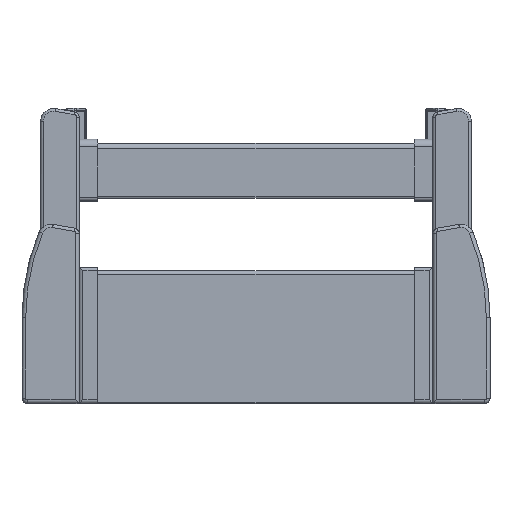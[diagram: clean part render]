
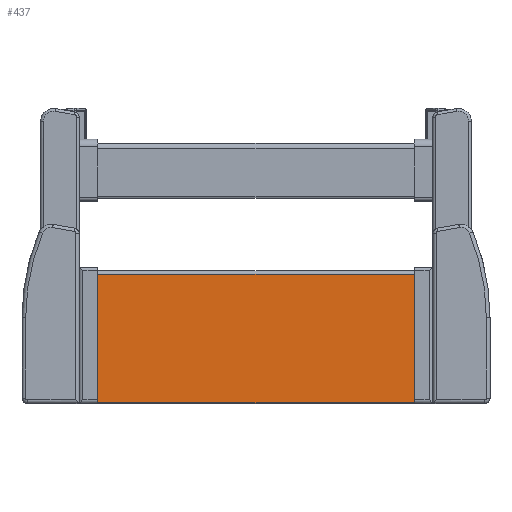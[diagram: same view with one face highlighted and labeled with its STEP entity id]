
A CAD part, top view. The second image highlights one B-rep face of the part: STEP entity #437.
In plain terms, the highlighted planar face has unit normal (0, 0, 1).
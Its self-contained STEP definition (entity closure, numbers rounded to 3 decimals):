
#267 = VERTEX_POINT ( 'NONE', #1472 ) ;
#437 = ADVANCED_FACE ( 'NONE', ( #1766 ), #1772, .F. ) ;
#438 = EDGE_LOOP ( 'NONE', ( #440, #447, #449, #453 ) ) ;
#440 = ORIENTED_EDGE ( 'NONE', *, *, #508, .F. ) ;
#447 = ORIENTED_EDGE ( 'NONE', *, *, #5454, .T. ) ;
#449 = ORIENTED_EDGE ( 'NONE', *, *, #450, .T. ) ;
#450 = EDGE_CURVE ( 'NONE', #267, #451, #1788, .T. ) ;
#451 = VERTEX_POINT ( 'NONE', #1836 ) ;
#453 = ORIENTED_EDGE ( 'NONE', *, *, #5584, .F. ) ;
#508 = EDGE_CURVE ( 'NONE', #5425, #509, #1977, .T. ) ;
#509 = VERTEX_POINT ( 'NONE', #1973 ) ;
#1472 = CARTESIAN_POINT ( 'NONE',  ( 85.8, -23., 1.4 ) ) ;
#1762 = DIRECTION ( 'NONE',  ( 0., 1., 0. ) ) ;
#1763 = DIRECTION ( 'NONE',  ( 0., 0., -1. ) ) ;
#1764 = CARTESIAN_POINT ( 'NONE',  ( 159.556, -92.5, 1.4 ) ) ;
#1765 = AXIS2_PLACEMENT_3D ( 'NONE', #1764, #1763, #1762 ) ;
#1766 = FACE_OUTER_BOUND ( 'NONE', #438, .T. ) ;
#1772 = PLANE ( 'NONE',  #1765 ) ;
#1788 = LINE ( 'NONE', #1839, #1838 ) ;
#1836 = CARTESIAN_POINT ( 'NONE',  ( -85.8, -23., 1.4 ) ) ;
#1837 = DIRECTION ( 'NONE',  ( -1., 0., 0. ) ) ;
#1838 = VECTOR ( 'NONE', #1837, 1000. ) ;
#1839 = CARTESIAN_POINT ( 'NONE',  ( 159.556, -23., 1.4 ) ) ;
#1973 = CARTESIAN_POINT ( 'NONE',  ( -85.8, -92.5, 1.4 ) ) ;
#1974 = DIRECTION ( 'NONE',  ( -1., 0., 0. ) ) ;
#1975 = VECTOR ( 'NONE', #1974, 1000. ) ;
#1976 = CARTESIAN_POINT ( 'NONE',  ( 159.556, -92.5, 1.4 ) ) ;
#1977 = LINE ( 'NONE', #1976, #1975 ) ;
#3206 = CARTESIAN_POINT ( 'NONE',  ( 85.8, -92.5, 1.4 ) ) ;
#3282 = DIRECTION ( 'NONE',  ( 0., 1., 0. ) ) ;
#3283 = VECTOR ( 'NONE', #3282, 1000. ) ;
#3284 = CARTESIAN_POINT ( 'NONE',  ( 85.8, -92.5, 1.4 ) ) ;
#3285 = LINE ( 'NONE', #3284, #3283 ) ;
#3485 = DIRECTION ( 'NONE',  ( 0., 1., 0. ) ) ;
#3486 = VECTOR ( 'NONE', #3485, 1000. ) ;
#3487 = CARTESIAN_POINT ( 'NONE',  ( -85.8, -92.5, 1.4 ) ) ;
#3488 = LINE ( 'NONE', #3487, #3486 ) ;
#5425 = VERTEX_POINT ( 'NONE', #3206 ) ;
#5454 = EDGE_CURVE ( 'NONE', #5425, #267, #3285, .T. ) ;
#5584 = EDGE_CURVE ( 'NONE', #509, #451, #3488, .T. ) ;
